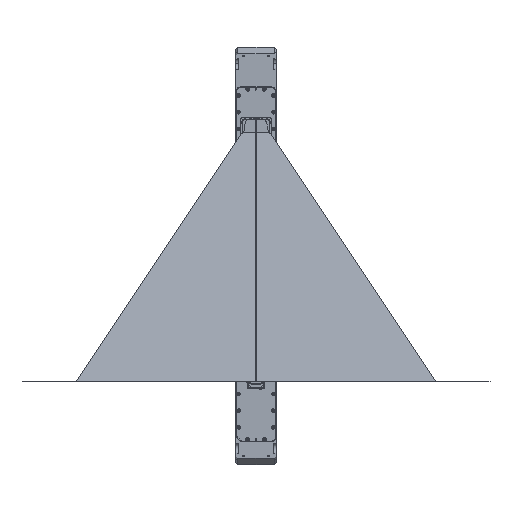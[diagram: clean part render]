
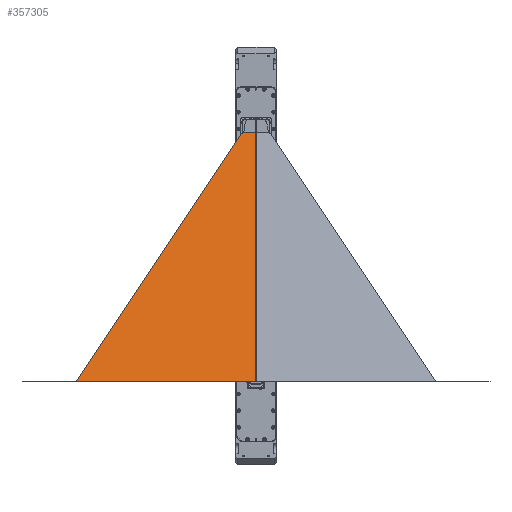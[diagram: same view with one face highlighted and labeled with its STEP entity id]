
A CAD part, front view. The second image highlights one B-rep face of the part: STEP entity #357305.
In plain terms, the highlighted planar face has unit normal (0, -0.501, 0.866).
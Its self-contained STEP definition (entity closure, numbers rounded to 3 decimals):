
#1129 = VERTEX_POINT ( 'NONE', #300473 ) ;
#4975 = VECTOR ( 'NONE', #225989, 1000. ) ;
#6869 = VERTEX_POINT ( 'NONE', #222673 ) ;
#7270 = LINE ( 'NONE', #222144, #209312 ) ;
#9158 = CARTESIAN_POINT ( 'NONE',  ( -0.005, -129.184, 223.255 ) ) ;
#40307 = EDGE_CURVE ( 'NONE', #1129, #6869, #190821, .T. ) ;
#78825 = CARTESIAN_POINT ( 'NONE',  ( -0.005, -515.003, 0.004 ) ) ;
#79874 = ORIENTED_EDGE ( 'NONE', *, *, #231992, .T. ) ;
#86237 = VERTEX_POINT ( 'NONE', #356390 ) ;
#93252 = DIRECTION ( 'NONE',  ( 0., -0.501, 0.866 ) ) ;
#120871 = CARTESIAN_POINT ( 'NONE',  ( -215., -515.003, 0.004 ) ) ;
#123673 = DIRECTION ( 'NONE',  ( 0., -0.866, -0.501 ) ) ;
#128077 = AXIS2_PLACEMENT_3D ( 'NONE', #307969, #93252, #123673 ) ;
#136827 = DIRECTION ( 'NONE',  ( -1., 0., 0. ) ) ;
#161394 = ORIENTED_EDGE ( 'NONE', *, *, #283127, .T. ) ;
#190821 = LINE ( 'NONE', #369048, #355950 ) ;
#195565 = LINE ( 'NONE', #9158, #4975 ) ;
#206533 = ORIENTED_EDGE ( 'NONE', *, *, #40307, .T. ) ;
#209312 = VECTOR ( 'NONE', #136827, 1000. ) ;
#222144 = CARTESIAN_POINT ( 'NONE',  ( 16.5, -0.003, 298.004 ) ) ;
#222673 = CARTESIAN_POINT ( 'NONE',  ( -215., -515.003, 0.004 ) ) ;
#225989 = DIRECTION ( 'NONE',  ( 0., -0.866, -0.501 ) ) ;
#231992 = EDGE_CURVE ( 'NONE', #6869, #255853, #398092, .T. ) ;
#238144 = VECTOR ( 'NONE', #375866, 1000. ) ;
#249218 = PLANE ( 'NONE',  #128077 ) ;
#251868 = EDGE_LOOP ( 'NONE', ( #293503, #161394, #206533, #79874 ) ) ;
#253622 = DIRECTION ( 'NONE',  ( -0.316, -0.821, -0.475 ) ) ;
#255853 = VERTEX_POINT ( 'NONE', #78825 ) ;
#277574 = FACE_OUTER_BOUND ( 'NONE', #251868, .T. ) ;
#283127 = EDGE_CURVE ( 'NONE', #86237, #1129, #7270, .T. ) ;
#293503 = ORIENTED_EDGE ( 'NONE', *, *, #302787, .F. ) ;
#300473 = CARTESIAN_POINT ( 'NONE',  ( -16.5, -0.003, 298.004 ) ) ;
#302787 = EDGE_CURVE ( 'NONE', #86237, #255853, #195565, .T. ) ;
#307969 = CARTESIAN_POINT ( 'NONE',  ( 0., -129.184, 223.255 ) ) ;
#355950 = VECTOR ( 'NONE', #253622, 1000. ) ;
#356390 = CARTESIAN_POINT ( 'NONE',  ( -0.005, -0.003, 298.004 ) ) ;
#357305 = ADVANCED_FACE ( 'NONE', ( #277574 ), #249218, .T. ) ;
#369048 = CARTESIAN_POINT ( 'NONE',  ( -16.5, -0.003, 298.004 ) ) ;
#375866 = DIRECTION ( 'NONE',  ( 1., 0., 0. ) ) ;
#398092 = LINE ( 'NONE', #120871, #238144 ) ;
